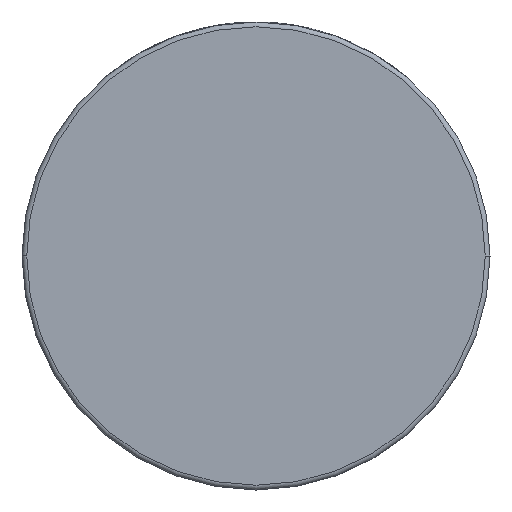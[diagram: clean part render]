
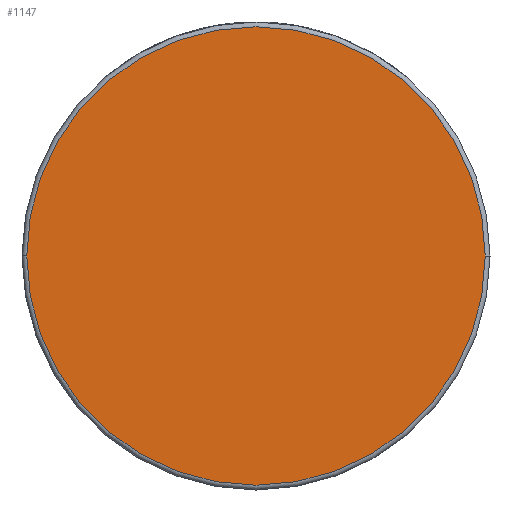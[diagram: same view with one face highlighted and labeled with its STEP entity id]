
A CAD part, front view. The second image highlights one B-rep face of the part: STEP entity #1147.
In plain terms, the highlighted planar face has unit normal (0, -1, 0).
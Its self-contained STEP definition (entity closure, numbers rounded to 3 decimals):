
#294 = CIRCLE ( 'NONE', #1964, 48. ) ;
#418 = DIRECTION ( 'NONE',  ( 0., -1., 0. ) ) ;
#1141 = CARTESIAN_POINT ( 'NONE',  ( 49., -30.5, 0. ) ) ;
#1147 = ADVANCED_FACE ( 'NONE', ( #2225 ), #2570, .T. ) ;
#1302 = AXIS2_PLACEMENT_3D ( 'NONE', #1141, #418, #3963 ) ;
#1394 = ORIENTED_EDGE ( 'NONE', *, *, #4390, .T. ) ;
#1668 = DIRECTION ( 'NONE',  ( 0., -1., 0. ) ) ;
#1935 = DIRECTION ( 'NONE',  ( 1., 0., 0. ) ) ;
#1964 = AXIS2_PLACEMENT_3D ( 'NONE', #3168, #3537, #3871 ) ;
#2009 = CARTESIAN_POINT ( 'NONE',  ( 0., -30.5, 0. ) ) ;
#2225 = FACE_OUTER_BOUND ( 'NONE', #4144, .T. ) ;
#2570 = PLANE ( 'NONE',  #1302 ) ;
#2932 = CARTESIAN_POINT ( 'NONE',  ( -48., -30.5, 0. ) ) ;
#3168 = CARTESIAN_POINT ( 'NONE',  ( 0., -30.5, 0. ) ) ;
#3189 = VERTEX_POINT ( 'NONE', #2932 ) ;
#3438 = EDGE_CURVE ( 'NONE', #3189, #3910, #294, .T. ) ;
#3537 = DIRECTION ( 'NONE',  ( 0., -1., 0. ) ) ;
#3769 = ORIENTED_EDGE ( 'NONE', *, *, #3438, .T. ) ;
#3841 = AXIS2_PLACEMENT_3D ( 'NONE', #2009, #1668, #1935 ) ;
#3871 = DIRECTION ( 'NONE',  ( 1., 0., 0. ) ) ;
#3910 = VERTEX_POINT ( 'NONE', #4308 ) ;
#3963 = DIRECTION ( 'NONE',  ( 1., 0., 0. ) ) ;
#4136 = CIRCLE ( 'NONE', #3841, 48. ) ;
#4144 = EDGE_LOOP ( 'NONE', ( #1394, #3769 ) ) ;
#4308 = CARTESIAN_POINT ( 'NONE',  ( 48., -30.5, 0. ) ) ;
#4390 = EDGE_CURVE ( 'NONE', #3910, #3189, #4136, .T. ) ;
